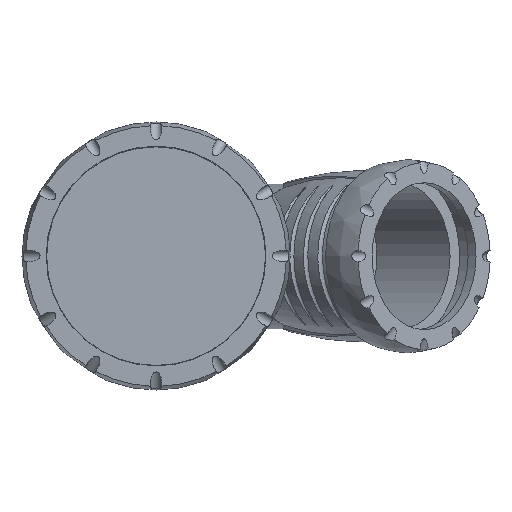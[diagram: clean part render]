
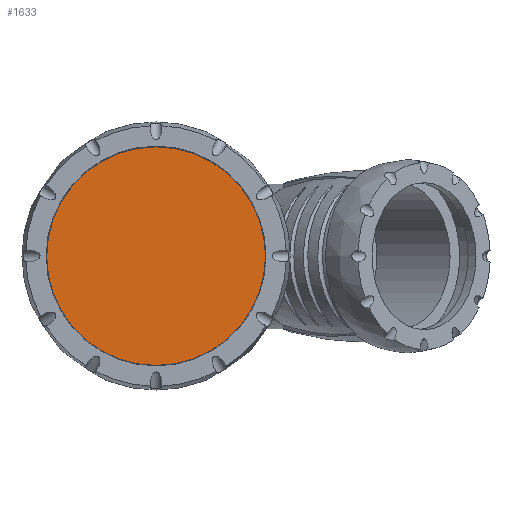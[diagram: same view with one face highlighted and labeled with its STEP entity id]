
A CAD part, top view. The second image highlights one B-rep face of the part: STEP entity #1633.
In plain terms, the highlighted planar face has unit normal (0, 0, 1).
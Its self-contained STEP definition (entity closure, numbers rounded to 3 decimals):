
#223=PLANE('',#1763);
#299=FACE_OUTER_BOUND('',#407,.T.);
#407=EDGE_LOOP('',(#1047));
#543=CIRCLE('',#1764,37.95);
#620=VERTEX_POINT('',#2375);
#796=EDGE_CURVE('',#620,#620,#543,.T.);
#1047=ORIENTED_EDGE('',*,*,#796,.T.);
#1633=ADVANCED_FACE('',(#299),#223,.T.);
#1763=AXIS2_PLACEMENT_3D('',#2374,#1958,#1959);
#1764=AXIS2_PLACEMENT_3D('',#2376,#1960,#1961);
#1958=DIRECTION('center_axis',(0.,0.,
1.));
#1959=DIRECTION('ref_axis',(0.,1.,0.));
#1960=DIRECTION('center_axis',(0.,0.,
1.));
#1961=DIRECTION('ref_axis',(0.,1.,0.));
#2374=CARTESIAN_POINT('Origin',(0.,0.,
137.32));
#2375=CARTESIAN_POINT('',(-37.95,0.,137.32));
#2376=CARTESIAN_POINT('Origin',(0.,0.,
137.32));
